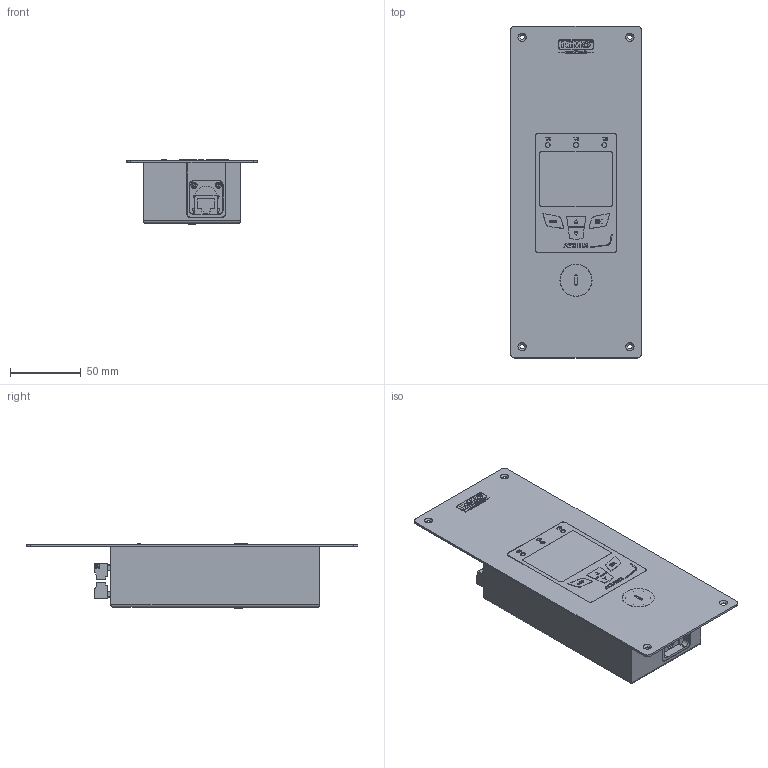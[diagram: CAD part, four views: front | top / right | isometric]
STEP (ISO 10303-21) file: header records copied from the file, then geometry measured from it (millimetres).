
FILE_DESCRIPTION((''),'2;1');
FILE_NAME('ATE-310_SW0003','2016-06-24T',('REFT'),(''),'PRO/ENGINEER BY PARAMETRIC TECHNOLOGY CORPORATION, 2012420','PRO/ENGINEER BY PARAMETRIC TECHNOLOGY CORPORATION, 2012420','');
FILE_SCHEMA(('CONFIG_CONTROL_DESIGN'));
Products named in the file (1): ATE-310_SW0003
Bounding box: 92 x 234 x 45.25 mm (x, y, z)
Volume: 465951.1 mm3; surface area: 72015.7 mm2
Topology: 1 solids, 1 shells, 1995 faces, 5453 edges, 3517 vertices
Faces by surface type: plane 1091, cylinder 488, extrusion 261, sphere 64, cone 61, torus 30
Entity records: 66977 total; most frequent: CARTESIAN_POINT 17825, ORIENTED_EDGE 10778, DIRECTION 9089, EDGE_CURVE 5389, VECTOR 3697, VERTEX_POINT 3517, LINE 3436, AXIS2_PLACEMENT_3D 2696
